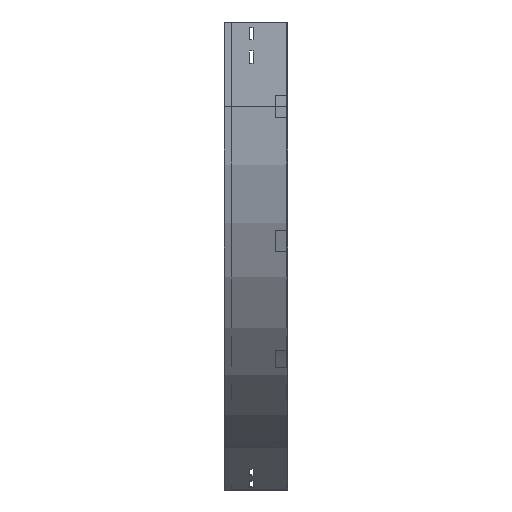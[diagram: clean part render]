
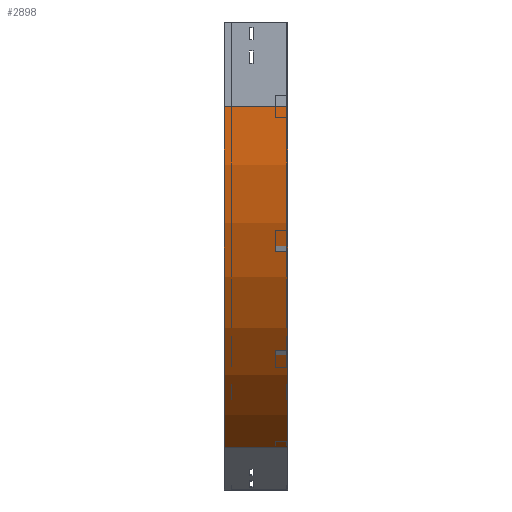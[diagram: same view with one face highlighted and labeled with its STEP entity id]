
A CAD part, left-side view. The second image highlights one B-rep face of the part: STEP entity #2898.
In plain terms, the highlighted cylindrical face has radius 700 mm (diameter 1400 mm), a partial arc.
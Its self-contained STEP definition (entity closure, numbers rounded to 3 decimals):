
#200 = VECTOR ( 'NONE', #2821, 1000. ) ;
#292 = DIRECTION ( 'NONE',  ( 0., -1., 0. ) ) ;
#297 = CARTESIAN_POINT ( 'NONE',  ( 0., 0., -150. ) ) ;
#308 = EDGE_CURVE ( 'NONE', #2604, #2673, #3012, .T. ) ;
#447 = VECTOR ( 'NONE', #2088, 1000. ) ;
#475 = CARTESIAN_POINT ( 'NONE',  ( 350., 0., -756.218 ) ) ;
#606 = CARTESIAN_POINT ( 'NONE',  ( 350., 0., -756.218 ) ) ;
#628 = LINE ( 'NONE', #297, #447 ) ;
#645 = AXIS2_PLACEMENT_3D ( 'NONE', #1910, #3097, #2737 ) ;
#683 = CARTESIAN_POINT ( 'NONE',  ( 0., 0., -150. ) ) ;
#772 = EDGE_CURVE ( 'NONE', #2673, #1884, #1931, .T. ) ;
#898 = CARTESIAN_POINT ( 'NONE',  ( 700., 0., -150. ) ) ;
#1018 = FACE_OUTER_BOUND ( 'NONE', #2590, .T. ) ;
#1448 = CARTESIAN_POINT ( 'NONE',  ( 350., 112.5, -756.218 ) ) ;
#1496 = EDGE_CURVE ( 'NONE', #2604, #2959, #628, .T. ) ;
#1557 = CYLINDRICAL_SURFACE ( 'NONE', #645, 700. ) ;
#1698 = AXIS2_PLACEMENT_3D ( 'NONE', #898, #292, #1826 ) ;
#1826 = DIRECTION ( 'NONE',  ( -1., 0., 0. ) ) ;
#1829 = ORIENTED_EDGE ( 'NONE', *, *, #1496, .F. ) ;
#1867 = CIRCLE ( 'NONE', #1698, 700. ) ;
#1884 = VERTEX_POINT ( 'NONE', #606 ) ;
#1910 = CARTESIAN_POINT ( 'NONE',  ( 700., 0., -150. ) ) ;
#1931 = LINE ( 'NONE', #475, #200 ) ;
#2031 = CARTESIAN_POINT ( 'NONE',  ( 0., 112.5, -150. ) ) ;
#2088 = DIRECTION ( 'NONE',  ( 0., -1., 0. ) ) ;
#2110 = DIRECTION ( 'NONE',  ( -1., 0., 0. ) ) ;
#2548 = ORIENTED_EDGE ( 'NONE', *, *, #3070, .F. ) ;
#2590 = EDGE_LOOP ( 'NONE', ( #2548, #1829, #3256, #2767 ) ) ;
#2604 = VERTEX_POINT ( 'NONE', #2031 ) ;
#2673 = VERTEX_POINT ( 'NONE', #1448 ) ;
#2737 = DIRECTION ( 'NONE',  ( 0., 0., -1. ) ) ;
#2767 = ORIENTED_EDGE ( 'NONE', *, *, #772, .T. ) ;
#2821 = DIRECTION ( 'NONE',  ( 0., -1., 0. ) ) ;
#2898 = ADVANCED_FACE ( 'NONE', ( #1018 ), #1557, .T. ) ;
#2959 = VERTEX_POINT ( 'NONE', #683 ) ;
#3012 = CIRCLE ( 'NONE', #3530, 700. ) ;
#3070 = EDGE_CURVE ( 'NONE', #2959, #1884, #1867, .T. ) ;
#3097 = DIRECTION ( 'NONE',  ( 0., -1., 0. ) ) ;
#3256 = ORIENTED_EDGE ( 'NONE', *, *, #308, .T. ) ;
#3338 = DIRECTION ( 'NONE',  ( 0., -1., 0. ) ) ;
#3530 = AXIS2_PLACEMENT_3D ( 'NONE', #3602, #3338, #2110 ) ;
#3602 = CARTESIAN_POINT ( 'NONE',  ( 700., 112.5, -150. ) ) ;
